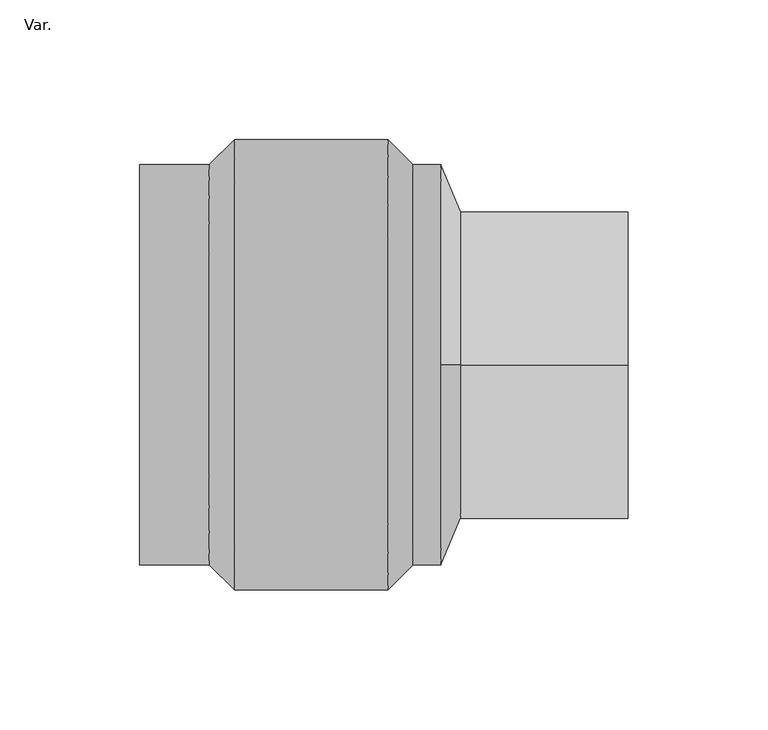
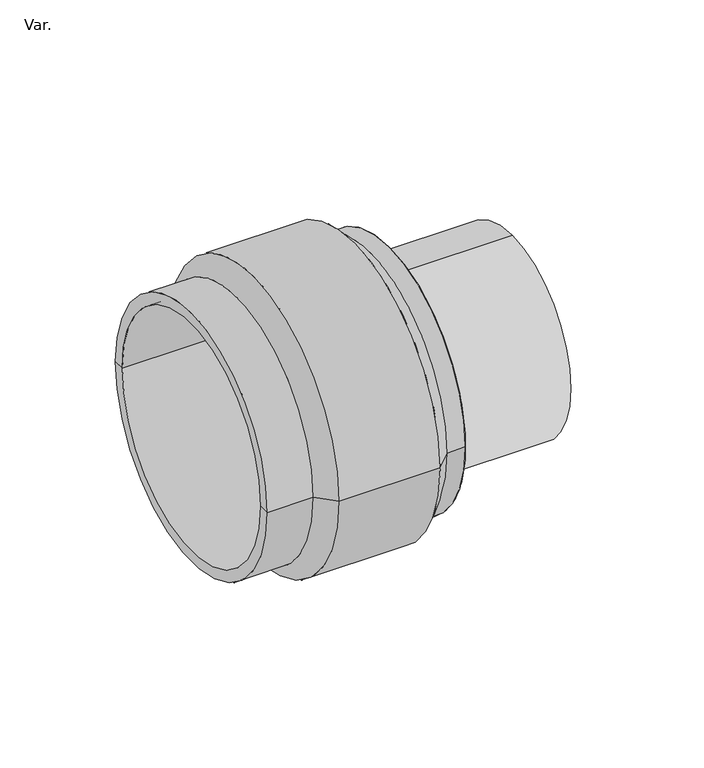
"""IFC4 building model written with IfcOpenShell, lengths in millimetres: pipe fitting geometry, NLRS-90-PIF_Wavin PVC Buitenriolering Gres PVC Overgang : Var.."""

from ifc_helpers import new_model, si_unit, point, frame, origin, origin_2d, place, context, project, spatial, polyline, circle_curve, trimmed, segment, composite_curve, outline, extrude, source, transform, mapped, element, save
from ifc_brep_helpers import plane_surface, cylinder_surface, revolved_surface, advanced_brep


def var_64b5a36c(model_context):
    return source(origin(), model_context, "Body", "SolidModel", [
        advanced_brep(
        [(-21.5, 0.0, 55.0), (-21.5, 0.0, -55.0), (-28.5, 0.0, 71.7), (-28.5, 0.0, -71.7)],
        [
            (0, 1, circle_curve(frame((-21.5, 0.0, 0.0), z_axis=(1.0, 0.0, 0.0), x_axis=(0.0, 0.0, 1.0)), 55.0)),
            (1, 0, circle_curve(frame((-21.5, 0.0, 0.0), z_axis=(1.0, 0.0, 0.0), x_axis=(0.0, 0.0, -1.0)), 55.0)),
            (2, 3, circle_curve(frame((-28.5, 0.0, 0.0), z_axis=(-1.0, 0.0, 0.0), x_axis=(0.0, 0.0, -1.0)), 71.7)),
            (3, 2, circle_curve(frame((-28.5, 0.0, 0.0), z_axis=(-1.0, 0.0, 0.0), x_axis=(0.0, 0.0, 1.0)), 71.7)),
            (3, 1),
            (0, 2),
        ],
        [
            plane_surface(frame((-21.5, 0.0, 0.0), z_axis=(1.0, 0.0, 0.0), x_axis=(0.0, 1.0, 0.0))),
            plane_surface(frame((-28.5, 0.0, 0.0), z_axis=(-1.0, 0.0, 0.0), x_axis=(0.0, 1.0, 0.0))),
            revolved_surface(polyline([(-21.5, 0.0, 54.99999999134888), (-28.5, 0.0, 71.7)]), (1.5538922, 0.0, 0.0), (-1.0, 0.0, 0.0)),
            revolved_surface(polyline([(-21.5, 0.0, -54.99999999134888), (-28.5, 0.0, -71.7)]), (1.5538922, 0.0, 0.0), (-1.0, 0.0, 0.0)),
        ],
        [
            (0, [[1, 2]]),
            (1, [[3, 4]]),
            (2, [[-4, 5, -1, 6]]),
            (3, [[-3, -6, -2, -5]]),
        ],
    ),
        extrude(outline(composite_curve([segment(trimmed(circle_curve(origin_2d(), 55.0), [point((0.0, -55.0))], [point((0.0, 55.0))], False, "CARTESIAN"), True, "CONTINUOUS"), segment(trimmed(circle_curve(origin_2d(), 55.0), [point((0.0, 55.0))], [point((0.0, -55.0))], False, "CARTESIAN"), True, "CONTINUOUS")], self_intersect=False)), frame((-21.5, 0.0, 0.0), z_axis=(1.0, 0.0, 0.0), x_axis=(0.0, 1.0, 0.0)), (0.0, 0.0, 1.0), 60.0),
        advanced_brep(
        [(-28.5, -65.5, 0.0), (-28.5, 65.5, 0.0), (-136.5, 65.5, 0.0), (-136.5, -65.5, 0.0), (-28.5, -71.7, 0.0), (-28.5, 71.7, 0.0), (-38.5, -71.7, 0.0), (-38.5, 71.7, 0.0), (-47.5, -80.7, 0.0), (-47.5, 80.7, 0.0), (-102.5, -80.7, 0.0), (-102.5, 80.7, 0.0), (-111.5, -71.7, 0.0), (-111.5, 71.7, 0.0), (-136.5, -71.7, 0.0), (-136.5, 71.7, 0.0)],
        [
            (0, 1, circle_curve(frame((-28.5, 0.0, 0.0), z_axis=(1.0, 0.0, 0.0), x_axis=(0.0, 1.0, 0.0)), 65.5)),
            (1, 2),
            (2, 3, circle_curve(frame((-136.5, 0.0, 0.0), z_axis=(-1.0, 0.0, 0.0), x_axis=(0.0, 1.0, 0.0)), 65.5)),
            (3, 0),
            (1, 0, circle_curve(frame((-28.5, 0.0, 0.0), z_axis=(1.0, 0.0, 0.0), x_axis=(0.0, 1.0, 0.0)), 65.5)),
            (3, 2, circle_curve(frame((-136.5, 0.0, 0.0), z_axis=(-1.0, 0.0, 0.0), x_axis=(0.0, 1.0, 0.0)), 65.5)),
            (4, 5, circle_curve(frame((-28.5, 0.0, 0.0), z_axis=(1.0, 0.0, 0.0), x_axis=(0.0, 1.0, 0.0)), 71.7)),
            (5, 1),
            (0, 4),
            (5, 4, circle_curve(frame((-28.5, 0.0, 0.0), z_axis=(1.0, 0.0, 0.0), x_axis=(0.0, 1.0, 0.0)), 71.7)),
            (6, 7, circle_curve(frame((-38.5, 0.0, 0.0), z_axis=(1.0, 0.0, 0.0), x_axis=(0.0, 1.0, 0.0)), 71.7)),
            (7, 5),
            (4, 6),
            (7, 6, circle_curve(frame((-38.5, 0.0, 0.0), z_axis=(1.0, 0.0, 0.0), x_axis=(0.0, 1.0, 0.0)), 71.7)),
            (8, 9, circle_curve(frame((-47.5, 0.0, 0.0), z_axis=(1.0, 0.0, 0.0), x_axis=(0.0, 1.0, 0.0)), 80.7)),
            (9, 7),
            (6, 8),
            (9, 8, circle_curve(frame((-47.5, 0.0, 0.0), z_axis=(1.0, 0.0, 0.0), x_axis=(0.0, 1.0, 0.0)), 80.7)),
            (10, 11, circle_curve(frame((-102.5, 0.0, 0.0), z_axis=(1.0, 0.0, 0.0), x_axis=(0.0, 1.0, 0.0)), 80.7)),
            (11, 9),
            (8, 10),
            (11, 10, circle_curve(frame((-102.5, 0.0, 0.0), z_axis=(1.0, 0.0, 0.0), x_axis=(0.0, 1.0, 0.0)), 80.7)),
            (12, 13, circle_curve(frame((-111.5, 0.0, 0.0), z_axis=(1.0, 0.0, 0.0), x_axis=(0.0, 1.0, 0.0)), 71.7)),
            (13, 11),
            (10, 12),
            (13, 12, circle_curve(frame((-111.5, 0.0, 0.0), z_axis=(1.0, 0.0, 0.0), x_axis=(0.0, 1.0, 0.0)), 71.7)),
            (14, 15, circle_curve(frame((-136.5, 0.0, 0.0), z_axis=(1.0, 0.0, 0.0), x_axis=(0.0, 1.0, 0.0)), 71.7)),
            (15, 13),
            (12, 14),
            (15, 14, circle_curve(frame((-136.5, 0.0, 0.0), z_axis=(1.0, 0.0, 0.0), x_axis=(0.0, 1.0, 0.0)), 71.7)),
            (2, 15),
            (14, 3),
        ],
        [
            revolved_surface(polyline([(-136.5, 65.5, 0.0), (-28.5, 65.5, 0.0)]), (2000.0, 0.0, 0.0), (-1.0, 0.0, 0.0)),
            plane_surface(frame((-28.5, 0.0, 0.0), z_axis=(1.0, 0.0, 0.0), x_axis=(0.0, 1.0, 0.0))),
            cylinder_surface(frame((2000.0, 0.0, 0.0), z_axis=(-1.0, 0.0, 0.0), x_axis=(0.0, 1.0, 0.0)), 71.7),
            revolved_surface(polyline([(-38.5, 71.7, 0.0), (-47.5, 80.7, 0.0)]), (2000.0, 0.0, 0.0), (-1.0, 0.0, 0.0)),
            cylinder_surface(frame((2000.0, 0.0, 0.0), z_axis=(-1.0, 0.0, 0.0), x_axis=(0.0, 1.0, 0.0)), 80.7),
            revolved_surface(polyline([(-102.5, 80.7, 0.0), (-111.5, 71.7, 0.0)]), (2000.0, 0.0, 0.0), (-1.0, 0.0, 0.0)),
            plane_surface(frame((-136.5, 0.0, 0.0), z_axis=(-1.0, 0.0, 0.0), x_axis=(0.0, 1.0, 0.0))),
        ],
        [
            (0, [[1, 2, 3, 4]]),
            (0, [[5, -4, 6, -2]]),
            (1, [[7, 8, -1, 9]]),
            (1, [[10, -9, -5, -8]]),
            (2, [[11, 12, -7, 13]]),
            (2, [[14, -13, -10, -12]]),
            (3, [[15, 16, -11, 17]]),
            (3, [[18, -17, -14, -16]]),
            (4, [[19, 20, -15, 21]]),
            (4, [[22, -21, -18, -20]]),
            (5, [[23, 24, -19, 25]]),
            (5, [[26, -25, -22, -24]]),
            (2, [[27, 28, -23, 29]]),
            (2, [[30, -29, -26, -28]]),
            (6, [[-3, 31, -27, 32]]),
            (6, [[-6, -32, -30, -31]]),
        ],
    ),
    ])


if __name__ == "__main__":
    model = new_model("IFC4")
    model_context = context("Model", 3, world=origin())
    ifc_project = project(units=[si_unit("LENGTHUNIT", "METRE", prefix="MILLI")], contexts=[model_context])
    site = spatial("IfcSite", under=ifc_project)
    building = spatial("IfcBuilding", under=site)
    placement = place(None, origin())
    var_shape = var_64b5a36c(model_context)
    element("IfcPipeFitting", 1, ObjectType="NLRS-90-PIF_Wavin PVC Buitenriolering Gres PVC Overgang : Var.", at=placement, inside=building, context=model_context, shape_type="MappedRepresentation", body=[
        mapped(var_shape, transform((0.0, 0.0, 0.0), x_axis=(1.0, 0.0, 0.0), y_axis=(0.0, 1.0, 0.0), z_axis=(0.0, 0.0, 1.0))),
    ])
    save(model, "model.ifc")
